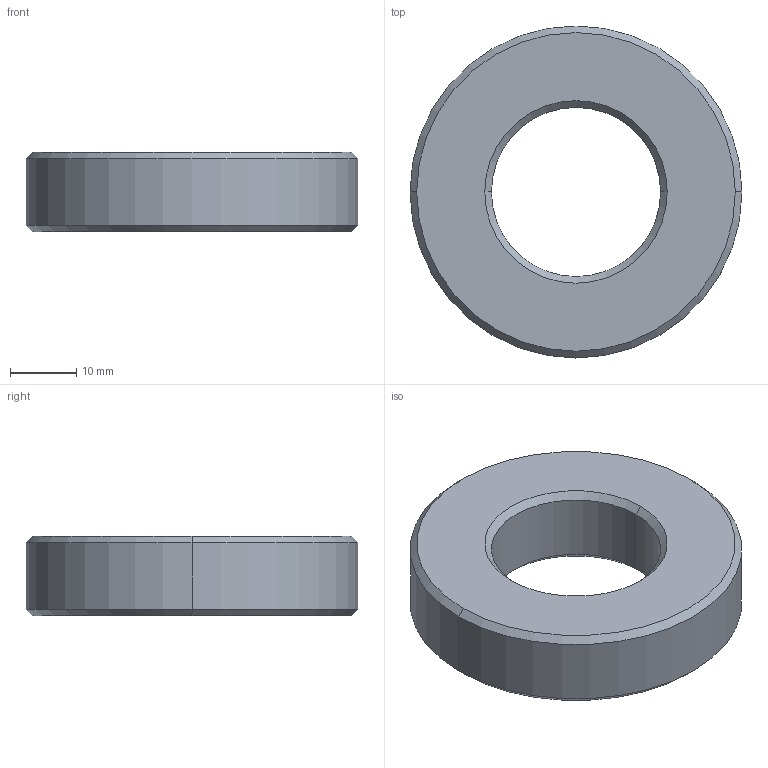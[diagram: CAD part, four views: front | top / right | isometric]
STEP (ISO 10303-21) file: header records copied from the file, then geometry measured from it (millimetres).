
FILE_DESCRIPTION (( 'STEP AP203' ), '1' );
FILE_NAME ('YYDK-500-0033-9 結輸.step', '2026-03-04T03:13:18', ( 'Windows 蚚誧' ), ( '' ), 'SwSTEP 2.0', 'SolidWorks 2020', '' );
FILE_SCHEMA (( 'CONFIG_CONTROL_DESIGN' ));
Length unit declared in the file: millimetre
Products named in the file (1): YYDK-500-0033-9 結輸
Bounding box: 50 x 50 x 12 mm (x, y, z)
Volume: 17196.3 mm3; surface area: 5474 mm2
Topology: 1 solids, 1 shells, 14 faces, 28 edges, 16 vertices
Faces by surface type: cone 8, cylinder 4, plane 2
Entity records: 445 total; most frequent: DIRECTION 74, CARTESIAN_POINT 59, ORIENTED_EDGE 56, AXIS2_PLACEMENT_3D 31, EDGE_CURVE 28, CIRCLE 16, EDGE_LOOP 16, VERTEX_POINT 16
